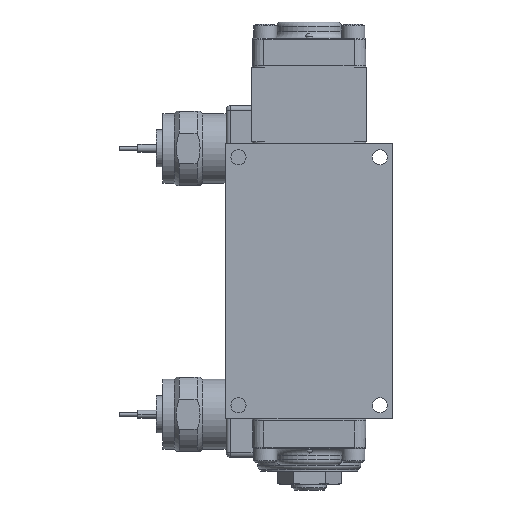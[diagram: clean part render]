
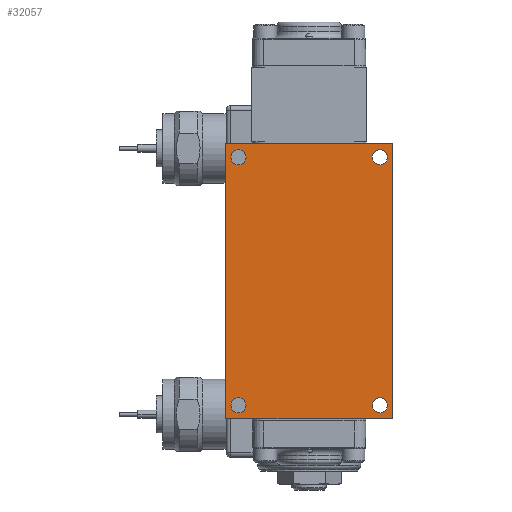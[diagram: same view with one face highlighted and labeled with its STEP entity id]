
A CAD part, front view. The second image highlights one B-rep face of the part: STEP entity #32057.
In plain terms, the highlighted planar face has unit normal (0, -1, 0).
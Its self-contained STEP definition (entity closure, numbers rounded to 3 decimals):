
#1113=FACE_BOUND('',#9611,.T.);
#1114=FACE_BOUND('',#9612,.T.);
#1115=FACE_BOUND('',#9613,.T.);
#1116=FACE_BOUND('',#9614,.T.);
#2573=LINE('',#51367,#4890);
#2582=LINE('',#51406,#4899);
#2796=LINE('',#52404,#5113);
#3038=LINE('',#53828,#5355);
#4890=VECTOR('',#39002,1.);
#4899=VECTOR('',#39035,1.);
#5113=VECTOR('',#39425,1.);
#5355=VECTOR('',#39817,1.);
#7592=FACE_OUTER_BOUND('',#9610,.T.);
#9610=EDGE_LOOP('',(#23933,#23934,#23935,#23936));
#9611=EDGE_LOOP('',(#23937));
#9612=EDGE_LOOP('',(#23938));
#9613=EDGE_LOOP('',(#23939));
#9614=EDGE_LOOP('',(#23940));
#11234=CIRCLE('',#34370,0.258);
#11235=CIRCLE('',#34372,0.258);
#11236=CIRCLE('',#34374,0.258);
#11237=CIRCLE('',#34376,0.258);
#13118=VERTEX_POINT('',#51364);
#13119=VERTEX_POINT('',#51366);
#13136=VERTEX_POINT('',#51403);
#13137=VERTEX_POINT('',#51405);
#13661=VERTEX_POINT('',#54688);
#13662=VERTEX_POINT('',#54692);
#13663=VERTEX_POINT('',#54696);
#13664=VERTEX_POINT('',#54700);
#16453=EDGE_CURVE('',#13118,#13119,#2573,.T.);
#16472=EDGE_CURVE('',#13136,#13137,#2582,.T.);
#16752=EDGE_CURVE('',#13137,#13118,#2796,.T.);
#17088=EDGE_CURVE('',#13119,#13136,#3038,.T.);
#17269=EDGE_CURVE('',#13661,#13661,#11234,.T.);
#17271=EDGE_CURVE('',#13662,#13662,#11235,.T.);
#17273=EDGE_CURVE('',#13663,#13663,#11236,.T.);
#17275=EDGE_CURVE('',#13664,#13664,#11237,.T.);
#23933=ORIENTED_EDGE('',*,*,#16752,.F.);
#23934=ORIENTED_EDGE('',*,*,#16472,.F.);
#23935=ORIENTED_EDGE('',*,*,#17088,.F.);
#23936=ORIENTED_EDGE('',*,*,#16453,.F.);
#23937=ORIENTED_EDGE('',*,*,#17269,.T.);
#23938=ORIENTED_EDGE('',*,*,#17271,.T.);
#23939=ORIENTED_EDGE('',*,*,#17273,.T.);
#23940=ORIENTED_EDGE('',*,*,#17275,.T.);
#28900=PLANE('',#34402);
#32057=ADVANCED_FACE('',(#7592,#1113,#1114,#1115,#1116),#28900,.F.);
#34370=AXIS2_PLACEMENT_3D('',#54690,#40196,#40197);
#34372=AXIS2_PLACEMENT_3D('',#54694,#40201,#40202);
#34374=AXIS2_PLACEMENT_3D('',#54698,#40206,#40207);
#34376=AXIS2_PLACEMENT_3D('',#54702,#40211,#40212);
#34402=AXIS2_PLACEMENT_3D('',#54753,#40278,#40279);
#39002=DIRECTION('',(1.,0.,0.));
#39035=DIRECTION('',(-1.,0.,0.));
#39425=DIRECTION('',(0.,0.,1.));
#39817=DIRECTION('',(0.,0.,-1.));
#40196=DIRECTION('center_axis',(0.,1.,0.));
#40197=DIRECTION('ref_axis',(-1.,0.,0.));
#40201=DIRECTION('center_axis',(0.,1.,0.));
#40202=DIRECTION('ref_axis',(-1.,0.,0.));
#40206=DIRECTION('center_axis',(0.,1.,0.));
#40207=DIRECTION('ref_axis',(-1.,0.,0.));
#40211=DIRECTION('center_axis',(0.,1.,0.));
#40212=DIRECTION('ref_axis',(-1.,0.,0.));
#40278=DIRECTION('center_axis',(0.,1.,0.));
#40279=DIRECTION('ref_axis',(0.,0.,1.));
#51364=CARTESIAN_POINT('',(-2.858,-1.636,4.71));
#51366=CARTESIAN_POINT('',(2.858,-1.636,4.71));
#51367=CARTESIAN_POINT('',(-2.858,-1.636,4.71));
#51403=CARTESIAN_POINT('',(2.858,-1.636,-4.71));
#51405=CARTESIAN_POINT('',(-2.858,-1.636,-4.71));
#51406=CARTESIAN_POINT('',(2.858,-1.636,-4.71));
#52404=CARTESIAN_POINT('',(-2.858,-1.636,-4.71));
#53828=CARTESIAN_POINT('',(2.858,-1.636,4.71));
#54688=CARTESIAN_POINT('',(-2.163,-1.636,-4.247));
#54690=CARTESIAN_POINT('Origin',(-2.421,-1.636,-4.247));
#54692=CARTESIAN_POINT('',(-2.163,-1.636,4.247));
#54694=CARTESIAN_POINT('Origin',(-2.421,-1.636,4.247));
#54696=CARTESIAN_POINT('',(2.678,-1.636,-4.247));
#54698=CARTESIAN_POINT('Origin',(2.421,-1.636,-4.247));
#54700=CARTESIAN_POINT('',(2.678,-1.636,4.247));
#54702=CARTESIAN_POINT('Origin',(2.421,-1.636,4.247));
#54753=CARTESIAN_POINT('Origin',(0.,-1.636,0.));
